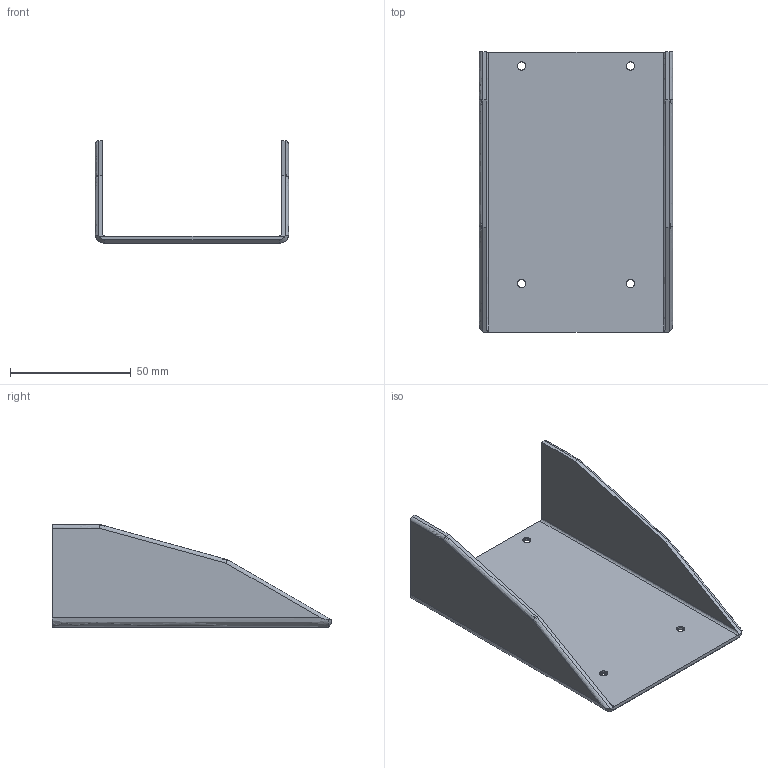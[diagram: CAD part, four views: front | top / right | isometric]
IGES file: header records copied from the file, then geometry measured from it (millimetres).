
Global section: file name: C:\Users\gehrichcr\Documents\1 Drive Backup\Practice\Inspire\V1.5\IGES\Canopy Top V1.5 Split B.igs; native system: NX V8.5; preprocessor: SIEMENS PLM Software NX 8.5; date: 20150619.112033; units: millimetre
Bounding box: 80 x 115.74 x 42.5 mm (x, y, z)
Surface area: 31360.5 mm2 (no closed solid volume)
Topology: 0 solids, 0 shells, 43 faces, 290 edges, 274 vertices
Faces by surface type: bspline 43
